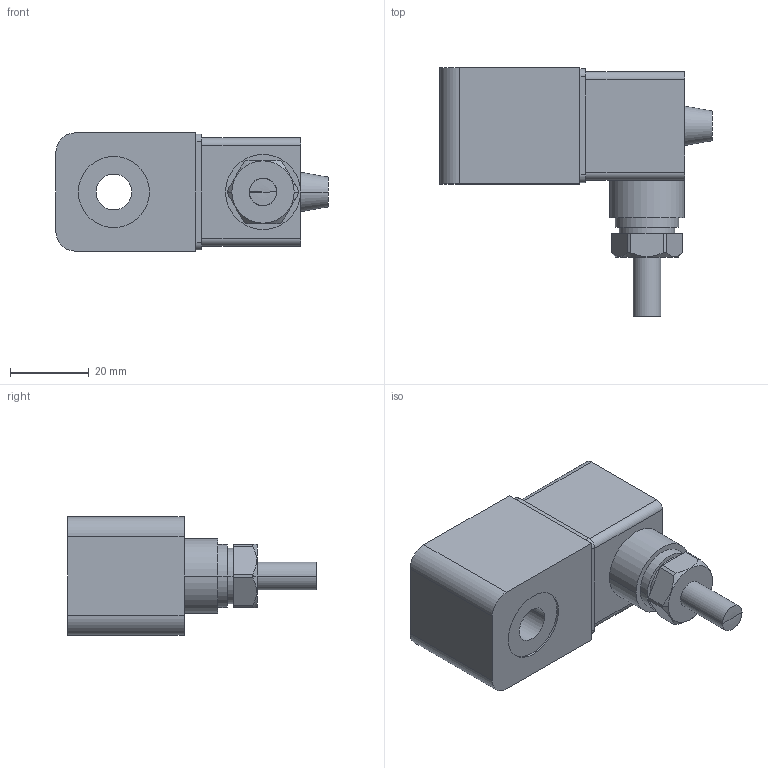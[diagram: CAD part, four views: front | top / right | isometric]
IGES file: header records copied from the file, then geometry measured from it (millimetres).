
Start section:  PTC IGES file: 1827414297\1827414297.iges
Global section: file name: 1827414297\1827414297.iges; native system: Creo Parametric by PTC Inc.; preprocessor: 2023092; author: GND7HC; organization: Unknown; date: 20240529.113449; units: millimetre
Bounding box: 69 x 63.05 x 30 mm (x, y, z)
Surface area: 11351.9 mm2 (no closed solid volume)
Topology: 0 solids, 0 shells, 72 faces, 344 edges, 341 vertices
Faces by surface type: revolution 40, bspline 32
